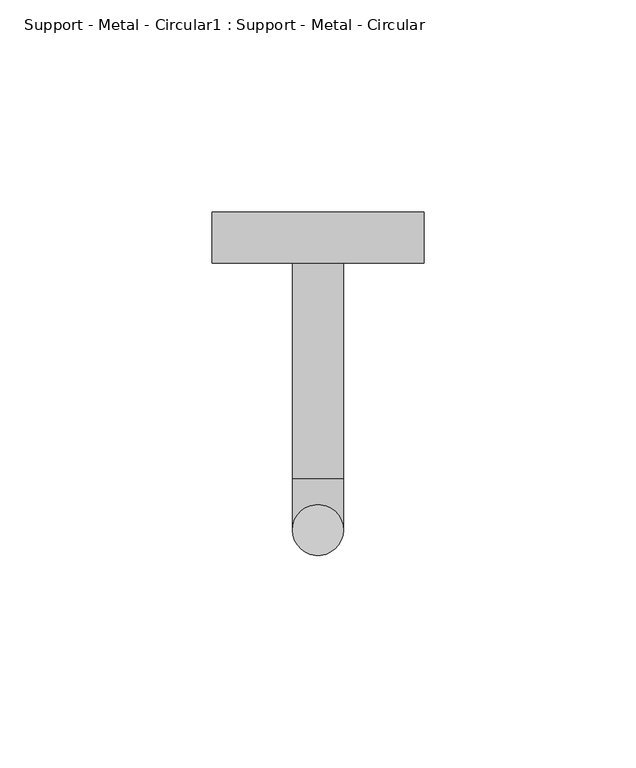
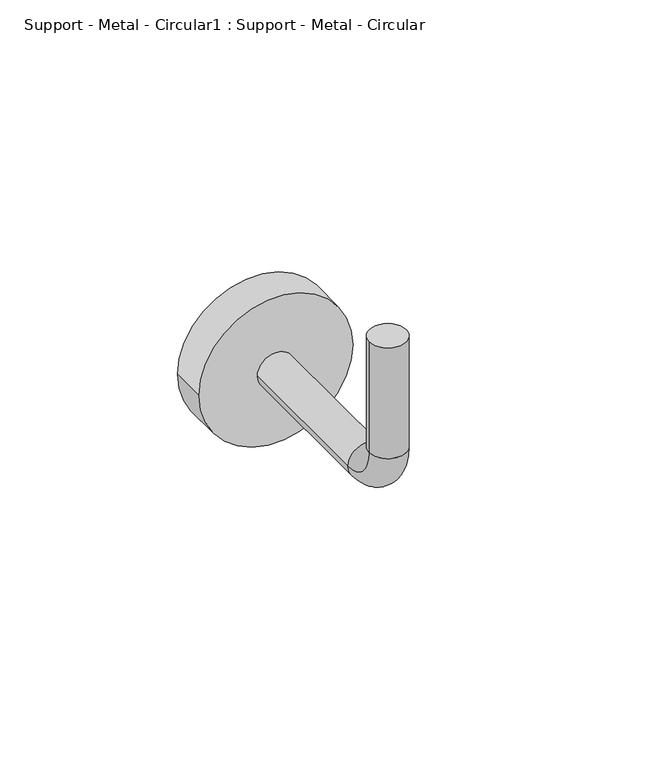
"""IFC4 building model written with IfcOpenShell, lengths in millimetres: proxy geometry, Support - Metal - Circular1 : Support - Metal - Circular."""

from ifc_helpers import new_model, si_unit, point, frame, frame_2d, origin, origin_with_axes, place, context, project, spatial, circle_curve, ellipse_curve, trimmed, segment, composite_curve, outline, extrude, source, transform, mapped, element, save
from ifc_brep_helpers import plane_surface, cylinder_surface, revolved_surface, advanced_brep


def support_metal_circular1_support_metal_circular_016e83f0(model_context):
    return source(origin(), model_context, "Body", "SolidModel", [
        advanced_brep(
        [(-6.0, 0.0, 0.0), (6.0, 0.0, 0.0), (-6.0, 0.0, -38.0), (6.0, 0.0, -38.0), (6.0, 12.0, -50.0), (-6.0, 12.0, -50.0), (-6.0, 63.0, -50.0), (6.0, 63.0, -50.0)],
        [
            (0, 1, circle_curve(origin_with_axes(), 6.0)),
            (1, 0, circle_curve(origin_with_axes(), 6.0)),
            (0, 2),
            (2, 3, circle_curve(frame((0.0, 0.0, -38.0), z_axis=(0.0, 0.0, 1.0), x_axis=(1.0, 0.0, 0.0)), 6.0)),
            (3, 1),
            (3, 2, circle_curve(frame((0.0, 0.0, -38.0), z_axis=(0.0, 0.0, 1.0), x_axis=(1.0, 0.0, 0.0)), 6.0)),
            (4, 3, circle_curve(frame((6.0, 12.0, -38.0), z_axis=(-1.0, 0.0, 0.0), x_axis=(0.0, -1.0, 0.0)), 12.0)),
            (2, 5, circle_curve(frame((-6.0, 12.0, -38.0), z_axis=(1.0, 0.0, 0.0), x_axis=(0.0, -1.0, 0.0)), 12.0)),
            (5, 4, circle_curve(frame((0.0, 12.0, -50.0), z_axis=(0.0, -1.0, 0.0), x_axis=(1.0, 0.0, 0.0)), 6.0)),
            (4, 5, circle_curve(frame((0.0, 12.0, -50.0), z_axis=(0.0, -1.0, 0.0), x_axis=(1.0, 0.0, 0.0)), 6.0)),
            (6, 7, circle_curve(frame((0.0, 63.0, -50.0), z_axis=(0.0, 1.0, 0.0), x_axis=(1.0, 0.0, 0.0)), 6.0)),
            (7, 6, circle_curve(frame((0.0, 63.0, -50.0), z_axis=(0.0, 1.0, 0.0), x_axis=(1.0, 0.0, 0.0)), 6.0)),
            (5, 6),
            (7, 4),
        ],
        [
            plane_surface(origin_with_axes()),
            cylinder_surface(origin_with_axes(), 6.0),
            revolved_surface(trimmed(ellipse_curve(frame((0.0, 0.0, -38.0), z_axis=(0.0, 0.0, 1.0), x_axis=(1.0, 0.0, 0.0)), 6.0, 6.0), [point((-6.0, 0.0, -38.0))], [point((6.0, 0.0, -38.0))], True, "CARTESIAN"), (0.0, 12.0, -38.0), (1.0, 0.0, 0.0)),
            revolved_surface(trimmed(ellipse_curve(frame((0.0, 0.0, -38.0), z_axis=(0.0, 0.0, 1.0), x_axis=(1.0, 0.0, 0.0)), 6.0, 6.0), [point((6.0, 0.0, -38.0))], [point((-6.0, 0.0, -38.0))], True, "CARTESIAN"), (0.0, 12.0, -38.0), (1.0, 0.0, 0.0)),
            plane_surface(frame((0.0, 63.0, -50.0), z_axis=(0.0, 1.0, 0.0), x_axis=(1.0, 0.0, 0.0))),
            cylinder_surface(frame((0.0, 12.0, -50.0), z_axis=(0.0, -1.0, 0.0), x_axis=(1.0, 0.0, 0.0)), 6.0),
        ],
        [
            (0, [[1, 2]]),
            (1, [[-1, 3, 4, 5]]),
            (1, [[-2, -5, 6, -3]]),
            (2, [[7, -4, 8, 9]]),
            (3, [[-8, -6, -7, 10]]),
            (4, [[11, 12]]),
            (5, [[-9, 13, -12, 14]]),
            (5, [[-10, -14, -11, -13]]),
        ],
    ),
        extrude(outline(composite_curve([segment(trimmed(circle_curve(frame_2d((-50.0, 0.0)), 25.0), [point((-50.0, -25.0))], [point((-50.0, 25.0))], False, "CARTESIAN"), True, "CONTINUOUS"), segment(trimmed(circle_curve(frame_2d((-50.0, 0.0)), 25.0), [point((-50.0, 25.0))], [point((-50.0, -25.0))], False, "CARTESIAN"), True, "CONTINUOUS")], self_intersect=False)), frame((0.0, 63.0, 0.0), z_axis=(0.0, 1.0, 0.0), x_axis=(0.0, 0.0, 1.0)), (0.0, 0.0, 1.0), 12.0),
    ])


if __name__ == "__main__":
    model = new_model("IFC4")
    model_context = context("Model", 3, world=origin())
    ifc_project = project(units=[si_unit("LENGTHUNIT", "METRE", prefix="MILLI")], contexts=[model_context])
    site = spatial("IfcSite", under=ifc_project)
    building = spatial("IfcBuilding", under=site)
    placement = place(None, origin())
    support_metal_circular1_support_metal_circular_shape = support_metal_circular1_support_metal_circular_016e83f0(model_context)
    element("IfcBuildingElementProxy", 1, Name="Support - Metal - Circular1 : Support - Metal - Circular", ObjectType="Support - Metal - Circular1 : Support - Metal - Circular", at=placement, inside=building, context=model_context, shape_type="MappedRepresentation", body=[
        mapped(support_metal_circular1_support_metal_circular_shape, transform((0.0, 0.0, 0.0), x_axis=(1.0, 0.0, 0.0), y_axis=(0.0, 1.0, 0.0), z_axis=(0.0, 0.0, 1.0))),
    ])
    save(model, "model.ifc")
